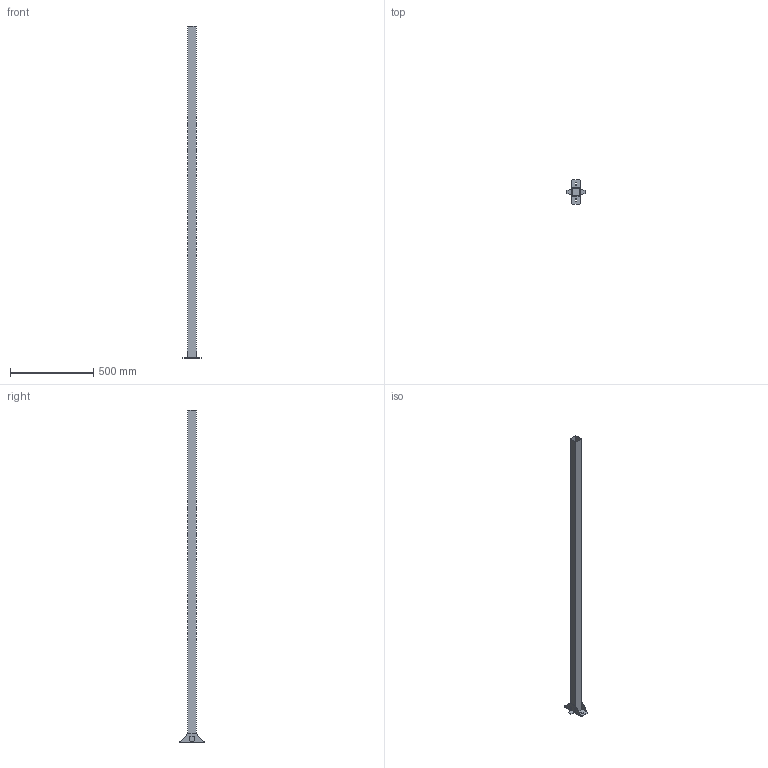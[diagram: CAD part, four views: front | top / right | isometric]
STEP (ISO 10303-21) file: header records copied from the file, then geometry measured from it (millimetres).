
FILE_DESCRIPTION(('FreeCAD Model'),'2;1');
FILE_NAME('Open CASCADE Shape Model','2024-03-14T10:10:20',('Author'),( ''),'Open CASCADE STEP processor 7.6','FreeCAD','Unknown');
FILE_SCHEMA(('AUTOMOTIVE_DESIGN { 1 0 10303 214 1 1 1 1 }'));
Length unit declared in the file: millimetre
Products named in the file (6): Unnamed; µ××ù003; µ××ù; µ××ù001; µ××ù002; 2ėb׹
Assembly tree (5 placements, depth 3):
  Unnamed
    µ××ù003
      µ××ù
      µ××ù001
      µ××ù002
    2ėb׹
Bounding box: 110 x 150 x 2000 mm (x, y, z)
Volume: 818701.4 mm3; surface area: 806717.3 mm2
Topology: 4 solids, 4 shells, 60 faces, 156 edges, 104 vertices
Faces by surface type: plane 56, cylinder 4
Entity records: 4008 total; most frequent: CARTESIAN_POINT 686, DIRECTION 600, LINE 452, VECTOR 452, ORIENTED_EDGE 312, PCURVE 312, DEFINITIONAL_REPRESENTATION 312, EDGE_CURVE 156
